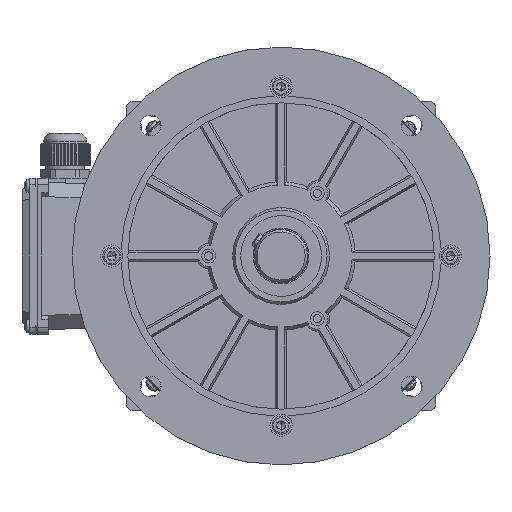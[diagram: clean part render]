
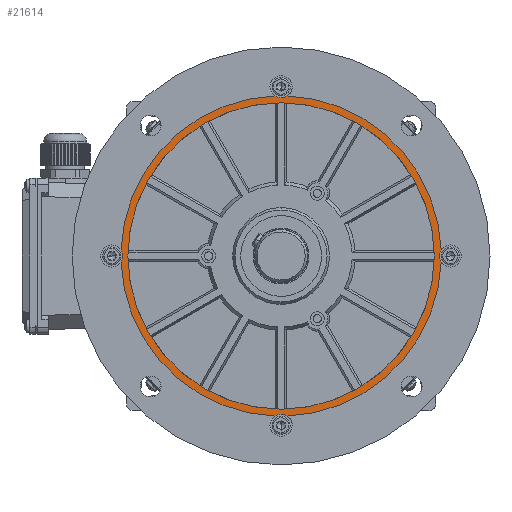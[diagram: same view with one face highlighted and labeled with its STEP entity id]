
A CAD part, left-side view. The second image highlights one B-rep face of the part: STEP entity #21614.
In plain terms, the highlighted planar face has unit normal (-1, 0, 0).
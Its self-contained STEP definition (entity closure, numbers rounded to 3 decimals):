
#1298 = CARTESIAN_POINT ( 'NONE',  ( 0., -121.5, 0. ) ) ;
#3330 = EDGE_LOOP ( 'NONE', ( #157783, #166651 ) ) ;
#4668 = EDGE_CURVE ( 'NONE', #91737, #5759, #169536, .T. ) ;
#5502 = CARTESIAN_POINT ( 'NONE',  ( 0., 0., -121.5 ) ) ;
#5759 = VERTEX_POINT ( 'NONE', #16034 ) ;
#6159 = AXIS2_PLACEMENT_3D ( 'NONE', #147268, #129158, #111110 ) ;
#6441 = CARTESIAN_POINT ( 'NONE',  ( 0., -114.91, 4.536 ) ) ;
#7008 = CIRCLE ( 'NONE', #165226, 115. ) ;
#10281 = CARTESIAN_POINT ( 'NONE',  ( 0., 4.536, 114.91 ) ) ;
#10686 = FACE_OUTER_BOUND ( 'NONE', #25748, .T. ) ;
#16034 = CARTESIAN_POINT ( 'NONE',  ( 0., 4.536, -114.91 ) ) ;
#20465 = DIRECTION ( 'NONE',  ( 0., 0., 1. ) ) ;
#20792 = CIRCLE ( 'NONE', #41118, 115. ) ;
#21614 = ADVANCED_FACE ( 'NONE', ( #143529, #10686 ), #97306, .F. ) ;
#22609 = EDGE_CURVE ( 'NONE', #35768, #5759, #102887, .T. ) ;
#25748 = EDGE_LOOP ( 'NONE', ( #161331, #137545, #126581, #43298, #33441, #89631, #58708, #155436, #151901, #42057 ) ) ;
#26550 = CARTESIAN_POINT ( 'NONE',  ( 0., 0., -110. ) ) ;
#28025 = EDGE_CURVE ( 'NONE', #55508, #104381, #158452, .T. ) ;
#31427 = EDGE_CURVE ( 'NONE', #152322, #119744, #161109, .T. ) ;
#31708 = CIRCLE ( 'NONE', #130945, 8. ) ;
#33441 = ORIENTED_EDGE ( 'NONE', *, *, #60672, .F. ) ;
#35768 = VERTEX_POINT ( 'NONE', #81877 ) ;
#36121 = DIRECTION ( 'NONE',  ( 0., 0., 1. ) ) ;
#36613 = DIRECTION ( 'NONE',  ( 0., 0., -1. ) ) ;
#38468 = DIRECTION ( 'NONE',  ( -1., 0., 0. ) ) ;
#41118 = AXIS2_PLACEMENT_3D ( 'NONE', #110712, #92627, #74618 ) ;
#42057 = ORIENTED_EDGE ( 'NONE', *, *, #4668, .F. ) ;
#42144 = EDGE_CURVE ( 'NONE', #130064, #103121, #74585, .T. ) ;
#43298 = ORIENTED_EDGE ( 'NONE', *, *, #149032, .T. ) ;
#43986 = EDGE_CURVE ( 'NONE', #104381, #55508, #62514, .T. ) ;
#46079 = AXIS2_PLACEMENT_3D ( 'NONE', #155660, #137572, #119470 ) ;
#53653 = AXIS2_PLACEMENT_3D ( 'NONE', #1298, #105209, #87202 ) ;
#54166 = DIRECTION ( 'NONE',  ( -1., 0., 0. ) ) ;
#54668 = DIRECTION ( 'NONE',  ( -1., 0., 0. ) ) ;
#55508 = VERTEX_POINT ( 'NONE', #26550 ) ;
#56508 = CARTESIAN_POINT ( 'NONE',  ( 0., 0., 0. ) ) ;
#58708 = ORIENTED_EDGE ( 'NONE', *, *, #129364, .T. ) ;
#60672 = EDGE_CURVE ( 'NONE', #103121, #101037, #89022, .T. ) ;
#61400 = DIRECTION ( 'NONE',  ( 0., 0., -1. ) ) ;
#62514 = CIRCLE ( 'NONE', #85590, 110. ) ;
#65346 = DIRECTION ( 'NONE',  ( 0., 0., 1. ) ) ;
#66766 = EDGE_CURVE ( 'NONE', #35768, #83730, #80947, .T. ) ;
#71391 = DIRECTION ( 'NONE',  ( 0., 0., 1. ) ) ;
#72729 = CARTESIAN_POINT ( 'NONE',  ( 0., 0., 121.5 ) ) ;
#74585 = CIRCLE ( 'NONE', #165800, 8. ) ;
#74618 = DIRECTION ( 'NONE',  ( 0., 0., 1. ) ) ;
#79480 = DIRECTION ( 'NONE',  ( -1., 0., 0. ) ) ;
#80947 = CIRCLE ( 'NONE', #92018, 8. ) ;
#81877 = CARTESIAN_POINT ( 'NONE',  ( 0., 114.91, -4.536 ) ) ;
#83431 = DIRECTION ( 'NONE',  ( -1., 0., 0. ) ) ;
#83730 = VERTEX_POINT ( 'NONE', #87692 ) ;
#85566 = AXIS2_PLACEMENT_3D ( 'NONE', #56508, #38468, #20465 ) ;
#85590 = AXIS2_PLACEMENT_3D ( 'NONE', #119481, #83431, #65346 ) ;
#87202 = DIRECTION ( 'NONE',  ( 0., 0., -1. ) ) ;
#87692 = CARTESIAN_POINT ( 'NONE',  ( 0., 114.91, 4.536 ) ) ;
#87742 = AXIS2_PLACEMENT_3D ( 'NONE', #72729, #54668, #36613 ) ;
#89022 = CIRCLE ( 'NONE', #87742, 8. ) ;
#89318 = EDGE_CURVE ( 'NONE', #116937, #119744, #20792, .T. ) ;
#89412 = DIRECTION ( 'NONE',  ( -1., 0., 0. ) ) ;
#89631 = ORIENTED_EDGE ( 'NONE', *, *, #42144, .F. ) ;
#89793 = CARTESIAN_POINT ( 'NONE',  ( 0., -4.536, -114.91 ) ) ;
#91377 = DIRECTION ( 'NONE',  ( 0., 0., -1. ) ) ;
#91737 = VERTEX_POINT ( 'NONE', #99706 ) ;
#92018 = AXIS2_PLACEMENT_3D ( 'NONE', #115543, #79480, #61400 ) ;
#92627 = DIRECTION ( 'NONE',  ( -1., 0., 0. ) ) ;
#97306 = PLANE ( 'NONE',  #6159 ) ;
#99341 = DIRECTION ( 'NONE',  ( 0., 0., -1. ) ) ;
#99706 = CARTESIAN_POINT ( 'NONE',  ( 0., 0., -113.5 ) ) ;
#101037 = VERTEX_POINT ( 'NONE', #104497 ) ;
#101691 = CARTESIAN_POINT ( 'NONE',  ( 0., 0., 113.5 ) ) ;
#102887 = CIRCLE ( 'NONE', #173381, 115. ) ;
#103121 = VERTEX_POINT ( 'NONE', #101691 ) ;
#104381 = VERTEX_POINT ( 'NONE', #137200 ) ;
#104497 = CARTESIAN_POINT ( 'NONE',  ( 0., -4.536, 114.91 ) ) ;
#105209 = DIRECTION ( 'NONE',  ( -1., 0., 0. ) ) ;
#107434 = CARTESIAN_POINT ( 'NONE',  ( 0., 0., 0. ) ) ;
#108388 = DIRECTION ( 'NONE',  ( 0., 0., 1. ) ) ;
#109436 = DIRECTION ( 'NONE',  ( -1., 0., 0. ) ) ;
#110214 = EDGE_CURVE ( 'NONE', #116937, #91737, #31708, .T. ) ;
#110712 = CARTESIAN_POINT ( 'NONE',  ( 0., 0., 0. ) ) ;
#111110 = DIRECTION ( 'NONE',  ( 0., 0., -1. ) ) ;
#115543 = CARTESIAN_POINT ( 'NONE',  ( 0., 121.5, 0. ) ) ;
#116937 = VERTEX_POINT ( 'NONE', #89793 ) ;
#117398 = DIRECTION ( 'NONE',  ( -1., 0., 0. ) ) ;
#119470 = DIRECTION ( 'NONE',  ( 0., 0., -1. ) ) ;
#119481 = CARTESIAN_POINT ( 'NONE',  ( 0., 0., 0. ) ) ;
#119744 = VERTEX_POINT ( 'NONE', #136806 ) ;
#126445 = DIRECTION ( 'NONE',  ( -1., 0., 0. ) ) ;
#126581 = ORIENTED_EDGE ( 'NONE', *, *, #31427, .F. ) ;
#129158 = DIRECTION ( 'NONE',  ( 1., 0., 0. ) ) ;
#129364 = EDGE_CURVE ( 'NONE', #130064, #83730, #7008, .T. ) ;
#130064 = VERTEX_POINT ( 'NONE', #10281 ) ;
#130945 = AXIS2_PLACEMENT_3D ( 'NONE', #5502, #109436, #91377 ) ;
#135490 = CARTESIAN_POINT ( 'NONE',  ( 0., 0., 121.5 ) ) ;
#136806 = CARTESIAN_POINT ( 'NONE',  ( 0., -114.91, -4.536 ) ) ;
#137200 = CARTESIAN_POINT ( 'NONE',  ( 0., 0., 110. ) ) ;
#137545 = ORIENTED_EDGE ( 'NONE', *, *, #89318, .T. ) ;
#137572 = DIRECTION ( 'NONE',  ( -1., 0., 0. ) ) ;
#139164 = AXIS2_PLACEMENT_3D ( 'NONE', #162507, #54166, #36121 ) ;
#143529 = FACE_BOUND ( 'NONE', #3330, .T. ) ;
#144532 = CARTESIAN_POINT ( 'NONE',  ( 0., 0., 0. ) ) ;
#146235 = CIRCLE ( 'NONE', #85566, 115. ) ;
#147268 = CARTESIAN_POINT ( 'NONE',  ( 0., 110., 0. ) ) ;
#149032 = EDGE_CURVE ( 'NONE', #152322, #101037, #146235, .T. ) ;
#151901 = ORIENTED_EDGE ( 'NONE', *, *, #22609, .T. ) ;
#152322 = VERTEX_POINT ( 'NONE', #6441 ) ;
#155436 = ORIENTED_EDGE ( 'NONE', *, *, #66766, .F. ) ;
#155660 = CARTESIAN_POINT ( 'NONE',  ( 0., 0., -121.5 ) ) ;
#157783 = ORIENTED_EDGE ( 'NONE', *, *, #43986, .F. ) ;
#158452 = CIRCLE ( 'NONE', #139164, 110. ) ;
#161109 = CIRCLE ( 'NONE', #53653, 8. ) ;
#161331 = ORIENTED_EDGE ( 'NONE', *, *, #110214, .F. ) ;
#162507 = CARTESIAN_POINT ( 'NONE',  ( 0., 0., 0. ) ) ;
#165226 = AXIS2_PLACEMENT_3D ( 'NONE', #107434, #89412, #71391 ) ;
#165800 = AXIS2_PLACEMENT_3D ( 'NONE', #135490, #117398, #99341 ) ;
#166651 = ORIENTED_EDGE ( 'NONE', *, *, #28025, .F. ) ;
#169536 = CIRCLE ( 'NONE', #46079, 8. ) ;
#173381 = AXIS2_PLACEMENT_3D ( 'NONE', #144532, #126445, #108388 ) ;
